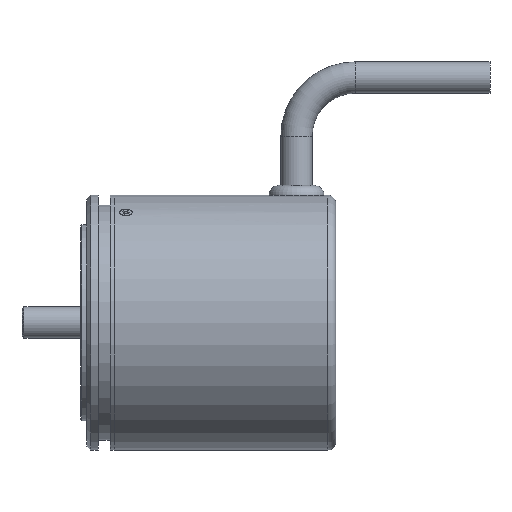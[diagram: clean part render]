
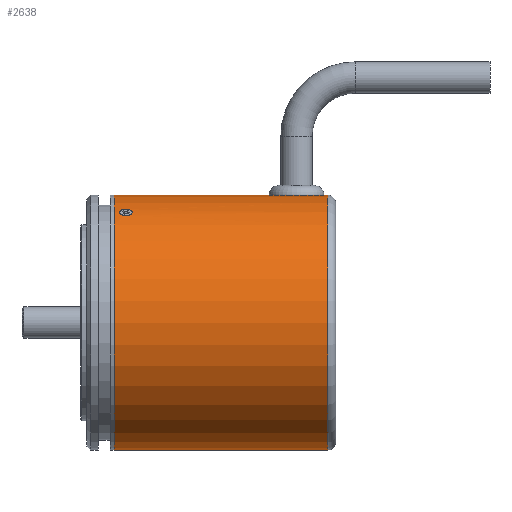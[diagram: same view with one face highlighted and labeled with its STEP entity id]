
A CAD part, front view. The second image highlights one B-rep face of the part: STEP entity #2638.
In plain terms, the highlighted cylindrical face has radius 32.5 mm (diameter 65 mm), a partial arc.
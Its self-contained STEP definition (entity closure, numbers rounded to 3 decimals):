
#8 = CARTESIAN_POINT ( 'NONE',  ( 9.91, -16.428, 28.043 ) ) ;
#19 = CARTESIAN_POINT ( 'NONE',  ( 63., 0., 0. ) ) ;
#80 = DIRECTION ( 'NONE',  ( -1., 0., 0. ) ) ;
#140 = EDGE_LOOP ( 'NONE', ( #1186, #1600 ) ) ;
#173 = CARTESIAN_POINT ( 'NONE',  ( 12.295, -17.413, 27.441 ) ) ;
#210 = CARTESIAN_POINT ( 'NONE',  ( 12.299, -15.05, 28.805 ) ) ;
#234 = CARTESIAN_POINT ( 'NONE',  ( 11.293, -17.576, 27.337 ) ) ;
#405 = CARTESIAN_POINT ( 'NONE',  ( 10.065, -16.851, 27.79 ) ) ;
#429 = CARTESIAN_POINT ( 'NONE',  ( 9.9, -16.158, 28.199 ) ) ;
#439 = CARTESIAN_POINT ( 'NONE',  ( 12.884, -15.561, 28.533 ) ) ;
#482 = DIRECTION ( 'NONE',  ( 0., 0., -1. ) ) ;
#492 = LINE ( 'NONE', #2197, #2003 ) ;
#500 = EDGE_LOOP ( 'NONE', ( #2046, #846, #958, #1470 ) ) ;
#524 = CARTESIAN_POINT ( 'NONE',  ( 13.1, -16.429, 28.042 ) ) ;
#530 = VERTEX_POINT ( 'NONE', #1372 ) ;
#556 = CARTESIAN_POINT ( 'NONE',  ( 13.057, -15.891, 28.351 ) ) ;
#582 = CARTESIAN_POINT ( 'NONE',  ( 11.913, -17.551, 27.353 ) ) ;
#601 = CARTESIAN_POINT ( 'NONE',  ( 9.983, -16.687, 27.889 ) ) ;
#623 = CARTESIAN_POINT ( 'NONE',  ( 10.99, -17.519, 27.374 ) ) ;
#635 = CARTESIAN_POINT ( 'NONE',  ( 11.603, -14.878, 28.894 ) ) ;
#665 = DIRECTION ( 'NONE',  ( -1., 0., 0. ) ) ;
#704 = EDGE_CURVE ( 'NONE', #2497, #2258, #2303, .T. ) ;
#706 = DIRECTION ( 'NONE',  ( -1., 0., 0. ) ) ;
#755 = VERTEX_POINT ( 'NONE', #1288 ) ;
#778 = EDGE_CURVE ( 'NONE', #755, #2497, #2165, .T. ) ;
#803 = CARTESIAN_POINT ( 'NONE',  ( 10.3, -17.141, 27.612 ) ) ;
#833 = CARTESIAN_POINT ( 'NONE',  ( 11.708, -14.887, 28.89 ) ) ;
#845 = CARTESIAN_POINT ( 'NONE',  ( 12.476, -15.151, 28.753 ) ) ;
#846 = ORIENTED_EDGE ( 'NONE', *, *, #778, .T. ) ;
#858 = CARTESIAN_POINT ( 'NONE',  ( 11.911, -14.922, 28.872 ) ) ;
#902 = CARTESIAN_POINT ( 'NONE',  ( 8.5, 0., 0. ) ) ;
#957 = CARTESIAN_POINT ( 'NONE',  ( 63., 0., 32.5 ) ) ;
#958 = ORIENTED_EDGE ( 'NONE', *, *, #704, .T. ) ;
#1007 = EDGE_CURVE ( 'NONE', #755, #2389, #492, .T. ) ;
#1018 = CARTESIAN_POINT ( 'NONE',  ( 12.935, -16.852, 27.79 ) ) ;
#1030 = CARTESIAN_POINT ( 'NONE',  ( 11.396, -17.584, 27.332 ) ) ;
#1052 = FACE_OUTER_BOUND ( 'NONE', #500, .T. ) ;
#1058 = CARTESIAN_POINT ( 'NONE',  ( 11.091, -14.921, 28.872 ) ) ;
#1062 = CARTESIAN_POINT ( 'NONE',  ( 8.5, 0., 32.5 ) ) ;
#1070 = CARTESIAN_POINT ( 'NONE',  ( 9.911, -16.069, 28.25 ) ) ;
#1114 = DIRECTION ( 'NONE',  ( 0., 0., -1. ) ) ;
#1154 = EDGE_CURVE ( 'NONE', #1315, #530, #2463, .T. ) ;
#1157 = EDGE_CURVE ( 'NONE', #530, #1315, #1209, .T. ) ;
#1175 = CARTESIAN_POINT ( 'NONE',  ( 11.5, -17.584, 27.332 ) ) ;
#1186 = ORIENTED_EDGE ( 'NONE', *, *, #1154, .F. ) ;
#1209 = B_SPLINE_CURVE_WITH_KNOTS ( 'NONE', 3,
 ( #2336, #2542, #2308, #1058, #1670, #1902, #2775, #1880, #1283, #2075, #1691, #1070, #429, #2112, #8, #2568, #601, #405, #2732, #1292, #803, #2552, #2122, #623, #1656, #234, #1030, #2348 ),
 .UNSPECIFIED., .F., .F.,
 ( 4, 2, 2, 2, 2, 2, 2, 2, 2, 2, 2, 2, 2, 4 ),
 ( 0.006, 0.006, 0.007, 0.007, 0.008, 0.008, 0.008, 0.009, 0.009, 0.009, 0.01, 0.01, 0.011, 0.011 ),
 .UNSPECIFIED. ) ;
#1283 = CARTESIAN_POINT ( 'NONE',  ( 10.107, -15.557, 28.535 ) ) ;
#1288 = CARTESIAN_POINT ( 'NONE',  ( 63., 0., -32.5 ) ) ;
#1292 = CARTESIAN_POINT ( 'NONE',  ( 10.232, -17.073, 27.655 ) ) ;
#1315 = VERTEX_POINT ( 'NONE', #2632 ) ;
#1372 = CARTESIAN_POINT ( 'NONE',  ( 11.5, -14.878, 28.894 ) ) ;
#1405 = CARTESIAN_POINT ( 'NONE',  ( 12.935, -15.642, 28.488 ) ) ;
#1436 = CARTESIAN_POINT ( 'NONE',  ( 12.203, -17.453, 27.416 ) ) ;
#1444 = DIRECTION ( 'NONE',  ( -1., 0., 0. ) ) ;
#1470 = ORIENTED_EDGE ( 'NONE', *, *, #2209, .T. ) ;
#1487 = CARTESIAN_POINT ( 'NONE',  ( 11.5, -14.878, 28.894 ) ) ;
#1600 = ORIENTED_EDGE ( 'NONE', *, *, #1157, .F. ) ;
#1644 = CARTESIAN_POINT ( 'NONE',  ( 11.708, -17.584, 27.332 ) ) ;
#1656 = CARTESIAN_POINT ( 'NONE',  ( 11.091, -17.543, 27.358 ) ) ;
#1670 = CARTESIAN_POINT ( 'NONE',  ( 10.99, -14.948, 28.859 ) ) ;
#1684 = CARTESIAN_POINT ( 'NONE',  ( 65., 0., 0. ) ) ;
#1691 = CARTESIAN_POINT ( 'NONE',  ( 9.953, -15.893, 28.349 ) ) ;
#1753 = CARTESIAN_POINT ( 'NONE',  ( 8.5, 0., -32.5 ) ) ;
#1776 = VECTOR ( 'NONE', #1444, 1000. ) ;
#1792 = AXIS2_PLACEMENT_3D ( 'NONE', #1684, #706, #1943 ) ;
#1805 = CARTESIAN_POINT ( 'NONE',  ( 12.55, -17.264, 27.536 ) ) ;
#1821 = CARTESIAN_POINT ( 'NONE',  ( 12.468, -17.319, 27.501 ) ) ;
#1866 = CARTESIAN_POINT ( 'NONE',  ( 12.767, -15.412, 28.614 ) ) ;
#1880 = CARTESIAN_POINT ( 'NONE',  ( 10.228, -15.403, 28.618 ) ) ;
#1902 = CARTESIAN_POINT ( 'NONE',  ( 10.703, -15.049, 28.806 ) ) ;
#1943 = DIRECTION ( 'NONE',  ( 0., 0., 1. ) ) ;
#1965 = AXIS2_PLACEMENT_3D ( 'NONE', #902, #2367, #1114 ) ;
#2003 = VECTOR ( 'NONE', #80, 1000. ) ;
#2046 = ORIENTED_EDGE ( 'NONE', *, *, #1007, .F. ) ;
#2075 = CARTESIAN_POINT ( 'NONE',  ( 9.985, -15.805, 28.398 ) ) ;
#2088 = CARTESIAN_POINT ( 'NONE',  ( 12.01, -14.947, 28.859 ) ) ;
#2103 = CARTESIAN_POINT ( 'NONE',  ( 12.7, -15.342, 28.651 ) ) ;
#2112 = CARTESIAN_POINT ( 'NONE',  ( 9.9, -16.338, 28.095 ) ) ;
#2122 = CARTESIAN_POINT ( 'NONE',  ( 10.702, -17.421, 27.436 ) ) ;
#2165 = CIRCLE ( 'NONE', #2742, 32.5 ) ;
#2197 = CARTESIAN_POINT ( 'NONE',  ( 65., 0., -32.5 ) ) ;
#2209 = EDGE_CURVE ( 'NONE', #2258, #2389, #2557, .T. ) ;
#2236 = CARTESIAN_POINT ( 'NONE',  ( 12.699, -17.142, 27.612 ) ) ;
#2258 = VERTEX_POINT ( 'NONE', #1062 ) ;
#2285 = CARTESIAN_POINT ( 'NONE',  ( 12.884, -16.93, 27.742 ) ) ;
#2292 = CARTESIAN_POINT ( 'NONE',  ( 65., 0., 32.5 ) ) ;
#2303 = LINE ( 'NONE', #2292, #1776 ) ;
#2308 = CARTESIAN_POINT ( 'NONE',  ( 11.294, -14.887, 28.89 ) ) ;
#2336 = CARTESIAN_POINT ( 'NONE',  ( 11.5, -14.878, 28.894 ) ) ;
#2348 = CARTESIAN_POINT ( 'NONE',  ( 11.5, -17.584, 27.332 ) ) ;
#2367 = DIRECTION ( 'NONE',  ( 1., 0., 0. ) ) ;
#2389 = VERTEX_POINT ( 'NONE', #1753 ) ;
#2439 = CARTESIAN_POINT ( 'NONE',  ( 13.057, -16.608, 27.937 ) ) ;
#2463 = B_SPLINE_CURVE_WITH_KNOTS ( 'NONE', 3,
 ( #1175, #1644, #582, #1436, #173, #1821, #1805, #2236, #2686, #2285, #1018, #2439, #524, #2475, #556, #1405, #439, #1866, #2103, #845, #210, #2088, #858, #833, #635, #1487 ),
 .UNSPECIFIED., .F., .F.,
 ( 4, 2, 2, 2, 2, 2, 2, 2, 2, 2, 2, 2, 4 ),
 ( 0.001, 0.002, 0.002, 0.002, 0.003, 0.003, 0.003, 0.004, 0.004, 0.005, 0.005, 0.006, 0.006 ),
 .UNSPECIFIED. ) ;
#2475 = CARTESIAN_POINT ( 'NONE',  ( 13.1, -16.072, 28.248 ) ) ;
#2497 = VERTEX_POINT ( 'NONE', #957 ) ;
#2542 = CARTESIAN_POINT ( 'NONE',  ( 11.397, -14.878, 28.894 ) ) ;
#2552 = CARTESIAN_POINT ( 'NONE',  ( 10.524, -17.325, 27.498 ) ) ;
#2557 = CIRCLE ( 'NONE', #1965, 32.5 ) ;
#2561 = CYLINDRICAL_SURFACE ( 'NONE', #1792, 32.5 ) ;
#2568 = CARTESIAN_POINT ( 'NONE',  ( 9.952, -16.602, 27.94 ) ) ;
#2632 = CARTESIAN_POINT ( 'NONE',  ( 11.5, -17.584, 27.332 ) ) ;
#2638 = ADVANCED_FACE ( 'NONE', ( #1052, #2767 ), #2561, .T. ) ;
#2686 = CARTESIAN_POINT ( 'NONE',  ( 12.766, -17.075, 27.653 ) ) ;
#2732 = CARTESIAN_POINT ( 'NONE',  ( 10.115, -16.928, 27.743 ) ) ;
#2742 = AXIS2_PLACEMENT_3D ( 'NONE', #19, #665, #482 ) ;
#2767 = FACE_BOUND ( 'NONE', #140, .T. ) ;
#2775 = CARTESIAN_POINT ( 'NONE',  ( 10.525, -15.151, 28.753 ) ) ;
